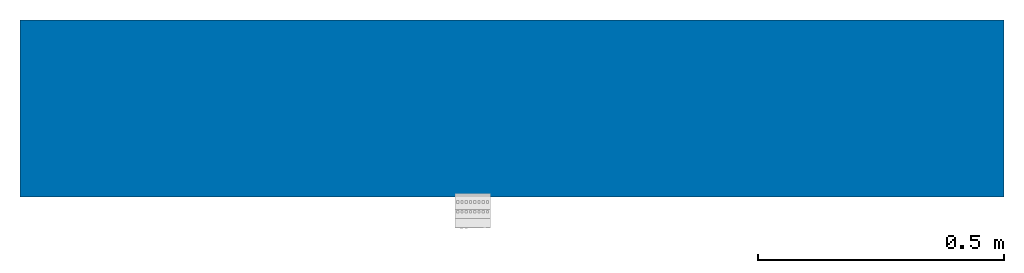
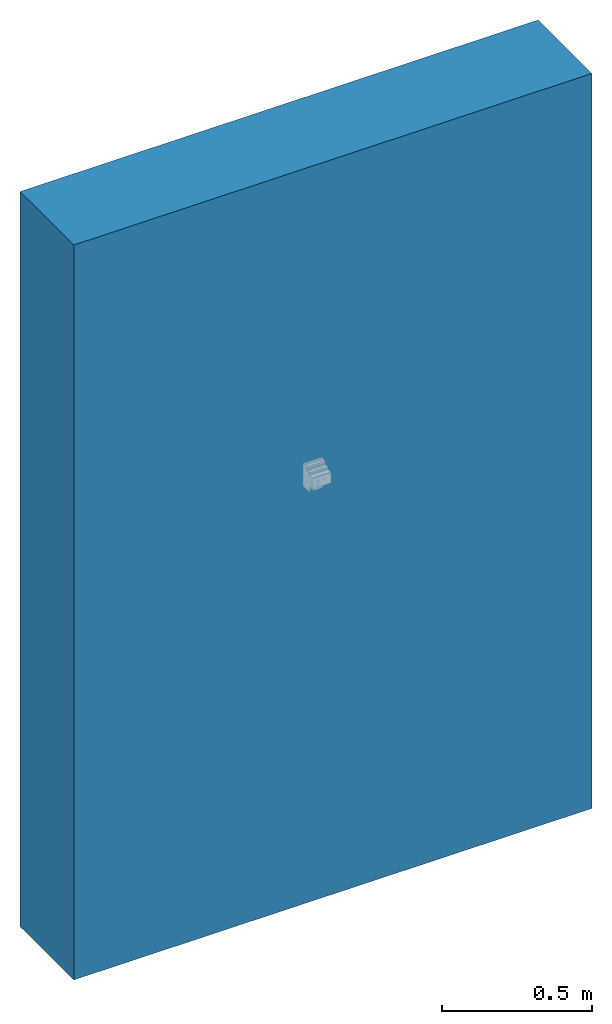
# One storey, incomplete: 1 wall.
"""IFC2X3 building model written with IfcOpenShell, lengths in metres."""

from ifc_helpers import new_model, entity, si_unit, converted_unit, derived_unit, direction, frame, frame_2d, origin, place, context, subcontext, project, spatial, rectangle, extrude, material, layer, layer_set, layer_usage, type_object, element, save


model = new_model("IFC2X3")

# Units and contexts
model_context = context("Model", 3, precision=1e-05, world=origin(), true_north=direction((6.12303176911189e-17, 1.0)))
body_context = subcontext(model_context, "Body", "Model", "MODEL_VIEW")
ifc_project = project(units=[si_unit("LENGTHUNIT", "METRE"), si_unit("AREAUNIT", "SQUARE_METRE"), si_unit("VOLUMEUNIT", "CUBIC_METRE"), converted_unit("PLANEANGLEUNIT", "DEGREE", entity("IfcRatioMeasure", 0.0174532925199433), si_unit("PLANEANGLEUNIT", "RADIAN"), dimensions=[0, 0, 0, 0, 0, 0, 0]), si_unit("MASSUNIT", "GRAM", prefix="KILO"), si_unit("TIMEUNIT", "SECOND"), si_unit("FREQUENCYUNIT", "HERTZ"), si_unit("THERMODYNAMICTEMPERATUREUNIT", "DEGREE_CELSIUS"), derived_unit("THERMALTRANSMITTANCEUNIT", [(si_unit("MASSUNIT", "GRAM", prefix="KILO"), 1), (si_unit("THERMODYNAMICTEMPERATUREUNIT", "KELVIN"), -1), (si_unit("TIMEUNIT", "SECOND"), -3)]), derived_unit("VOLUMETRICFLOWRATEUNIT", [(si_unit("LENGTHUNIT", "METRE"), 3), (si_unit("TIMEUNIT", "SECOND"), -1)]), si_unit("ELECTRICCURRENTUNIT", "AMPERE"), si_unit("ELECTRICVOLTAGEUNIT", "VOLT"), si_unit("POWERUNIT", "WATT"), si_unit("FORCEUNIT", "NEWTON", prefix="KILO"), si_unit("ILLUMINANCEUNIT", "LUX"), si_unit("LUMINOUSFLUXUNIT", "LUMEN"), si_unit("LUMINOUSINTENSITYUNIT", "CANDELA"), derived_unit("USERDEFINED", [(si_unit("MASSUNIT", "GRAM", prefix="KILO"), -1), (si_unit("LENGTHUNIT", "METRE"), -2), (si_unit("TIMEUNIT", "SECOND"), 3), (si_unit("LUMINOUSFLUXUNIT", "LUMEN"), 1)]), derived_unit("LINEARVELOCITYUNIT", [(si_unit("LENGTHUNIT", "METRE"), 1), (si_unit("TIMEUNIT", "SECOND"), -1)]), si_unit("PRESSUREUNIT", "PASCAL"), derived_unit("USERDEFINED", [(si_unit("LENGTHUNIT", "METRE"), -2), (si_unit("MASSUNIT", "GRAM", prefix="KILO"), 1), (si_unit("TIMEUNIT", "SECOND"), -2)])], contexts=[model_context])

# Site, building, storey
site_placement = place(None, origin())
site = spatial("IfcSite", under=ifc_project, at=site_placement, Name="Default", CompositionType="ELEMENT")
building_placement = place(site_placement, origin())
building = spatial("IfcBuilding", under=site, at=building_placement, CompositionType="ELEMENT")
storey_placement = place(building_placement, origin())
storey = spatial("IfcBuildingStorey", under=building, at=storey_placement, Name="Ebene 0", CompositionType="ELEMENT", Elevation=0.0)

# Wall
ifc_material_1 = material(Name="Wärmedämmung - hart")
ifc_layer_1 = layer(ifc_material_1, 0.12)
ifc_material_2 = material(Name="Mauerwerk - Ziegel, verputzt")
ifc_layer_2 = layer(ifc_material_2, 0.24)
ifc_layer_set = layer_set([ifc_layer_1, ifc_layer_2], Name="Basiswand:MW 24.0 WD 12.0")
ifc_layer_usage = layer_usage(ifc_layer_set, "AXIS2", "NEGATIVE", 0.18)
wall_type = type_object("IfcWallType", Name="Basiswand:MW 24.0 WD 12.0", PredefinedType="STANDARD", material=ifc_layer_set)
wall_placement = place(storey_placement, frame((-4.29740000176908, -2.57024219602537, 0.0)))
element("IfcWallStandardCase", 1, at=wall_placement, inside=storey, type_object=wall_type, material=ifc_layer_usage, Name="Basiswand:MW 24.0 WD 12.0", ObjectType="Basiswand:MW 24.0 WD 12.0:3900", context=body_context, shape_type="SweptSolid", body=[
    extrude(rectangle(XDim=2.0, YDim=0.36, at=frame_2d((1.0, -9.71445146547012e-17), x_axis=(-1.0, 0.0))), origin(), (0.0, 0.0, 1.0), 3.0),
])

save(model, "model.ifc")
